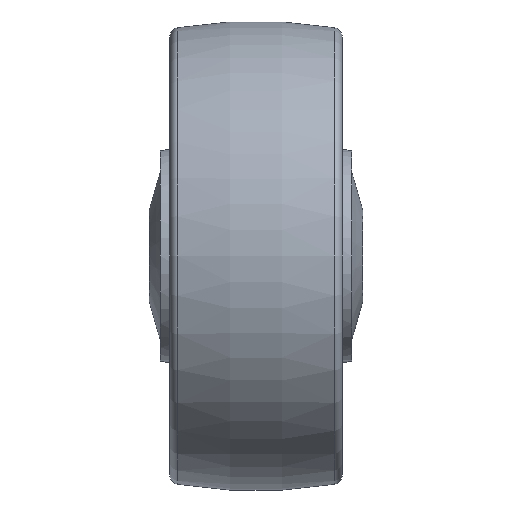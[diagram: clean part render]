
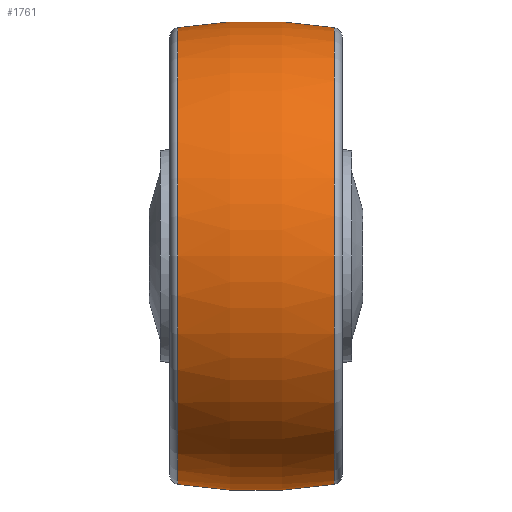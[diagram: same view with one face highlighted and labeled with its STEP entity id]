
A CAD part, front view. The second image highlights one B-rep face of the part: STEP entity #1761.
In plain terms, the highlighted toroidal (fillet/blend) face has major radius 51 mm and minor radius 100 mm.
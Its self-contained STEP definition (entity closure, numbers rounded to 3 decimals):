
#18 = ORIENTED_EDGE ( 'NONE', *, *, #1728, .F. ) ;
#59 = ORIENTED_EDGE ( 'NONE', *, *, #461, .F. ) ;
#260 = VERTEX_POINT ( 'NONE', #926 ) ;
#269 = EDGE_LOOP ( 'NONE', ( #59, #1729, #1721, #18 ) ) ;
#429 = VERTEX_POINT ( 'NONE', #1195 ) ;
#440 = VERTEX_POINT ( 'NONE', #1232 ) ;
#461 = EDGE_CURVE ( 'NONE', #260, #429, #1292, .T. ) ;
#462 = EDGE_CURVE ( 'NONE', #440, #1256, #1289, .T. ) ;
#926 = CARTESIAN_POINT ( 'NONE',  ( 15.999, -0.548, -47.113 ) ) ;
#1195 = CARTESIAN_POINT ( 'NONE',  ( -16.654, -0.548, -47.113 ) ) ;
#1232 = CARTESIAN_POINT ( 'NONE',  ( 15.999, -0.548, 48.203 ) ) ;
#1256 = VERTEX_POINT ( 'NONE', #1344 ) ;
#1274 = DIRECTION ( 'NONE',  ( 0., 0., -1. ) ) ;
#1275 = DIRECTION ( 'NONE',  ( 0., -1., 0. ) ) ;
#1276 = CARTESIAN_POINT ( 'NONE',  ( -0.327, -0.548, -50.455 ) ) ;
#1279 = DIRECTION ( 'NONE',  ( 0., 0., 1. ) ) ;
#1280 = DIRECTION ( 'NONE',  ( 0., 1., 0. ) ) ;
#1281 = AXIS2_PLACEMENT_3D ( 'NONE', #1287, #1280, #1279 ) ;
#1283 = AXIS2_PLACEMENT_3D ( 'NONE', #1276, #1275, #1274 ) ;
#1287 = CARTESIAN_POINT ( 'NONE',  ( -0.327, -0.548, 51.545 ) ) ;
#1289 = CIRCLE ( 'NONE', #1283, 100. ) ;
#1292 = CIRCLE ( 'NONE', #1281, 100. ) ;
#1336 = CIRCLE ( 'NONE', #1381, 47.658 ) ;
#1344 = CARTESIAN_POINT ( 'NONE',  ( -16.654, -0.548, 48.203 ) ) ;
#1379 = DIRECTION ( 'NONE',  ( 0., 0., 1. ) ) ;
#1380 = DIRECTION ( 'NONE',  ( -1., 0., 0. ) ) ;
#1381 = AXIS2_PLACEMENT_3D ( 'NONE', #1389, #1380, #1379 ) ;
#1389 = CARTESIAN_POINT ( 'NONE',  ( -16.654, -0.548, 0.545 ) ) ;
#1428 = DIRECTION ( 'NONE',  ( 0., 0., 1. ) ) ;
#1429 = CARTESIAN_POINT ( 'NONE',  ( 15.999, -0.548, 0.545 ) ) ;
#1434 = AXIS2_PLACEMENT_3D ( 'NONE', #1436, #1435, #1428 ) ;
#1435 = DIRECTION ( 'NONE',  ( -1., 0., 0. ) ) ;
#1436 = CARTESIAN_POINT ( 'NONE',  ( -0.327, -0.548, 0.545 ) ) ;
#1440 = FACE_OUTER_BOUND ( 'NONE', #269, .T. ) ;
#1443 = TOROIDAL_SURFACE ( 'NONE', #1434, -51., 100. ) ;
#1485 = DIRECTION ( 'NONE',  ( 0., 0., 1. ) ) ;
#1486 = DIRECTION ( 'NONE',  ( -1., 0., 0. ) ) ;
#1487 = AXIS2_PLACEMENT_3D ( 'NONE', #1429, #1486, #1485 ) ;
#1488 = CIRCLE ( 'NONE', #1487, 47.658 ) ;
#1721 = ORIENTED_EDGE ( 'NONE', *, *, #462, .T. ) ;
#1728 = EDGE_CURVE ( 'NONE', #429, #1256, #1336, .T. ) ;
#1729 = ORIENTED_EDGE ( 'NONE', *, *, #1762, .T. ) ;
#1761 = ADVANCED_FACE ( 'NONE', ( #1440 ), #1443, .T. ) ;
#1762 = EDGE_CURVE ( 'NONE', #260, #440, #1488, .T. ) ;
